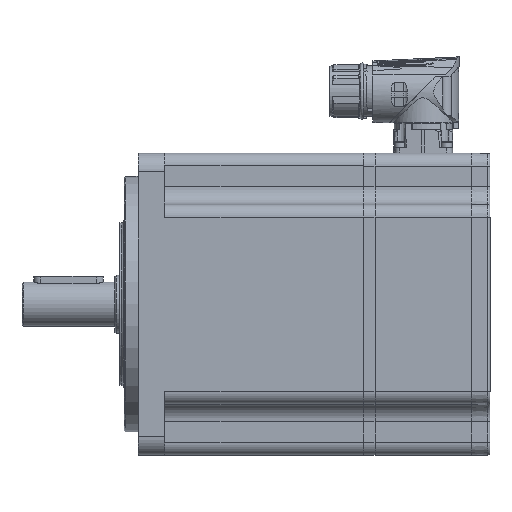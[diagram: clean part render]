
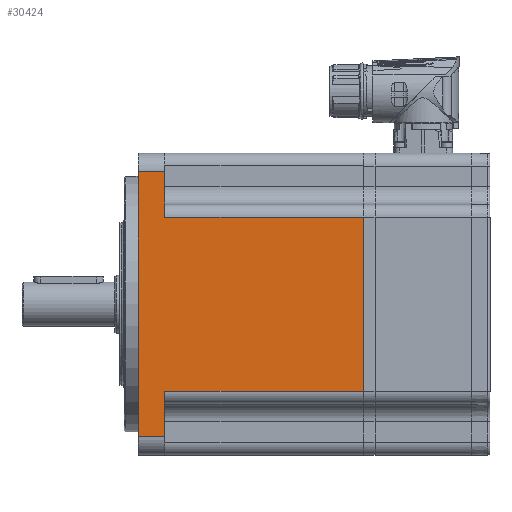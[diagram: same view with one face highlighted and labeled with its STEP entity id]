
A CAD part, left-side view. The second image highlights one B-rep face of the part: STEP entity #30424.
In plain terms, the highlighted planar face has unit normal (-1, 0, 0) as drawn and (1, 0, 0) by its records, which use the part's own axes.
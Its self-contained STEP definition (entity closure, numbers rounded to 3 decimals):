
#1183=LINE('',#66003,#3104);
#1223=LINE('',#66963,#3144);
#1234=LINE('',#67030,#3155);
#1261=LINE('',#67089,#3182);
#1262=LINE('',#67090,#3183);
#1263=LINE('',#67092,#3184);
#1264=LINE('',#67094,#3185);
#1265=LINE('',#67095,#3186);
#3104=VECTOR('',#51227,1000.);
#3144=VECTOR('',#51689,1000.);
#3155=VECTOR('',#51754,1000.);
#3182=VECTOR('',#51817,1000.);
#3183=VECTOR('',#51818,1000.);
#3184=VECTOR('',#51819,1000.);
#3185=VECTOR('',#51820,1000.);
#3186=VECTOR('',#51821,1000.);
#5926=PLANE('',#45787);
#11756=ORIENTED_EDGE('',*,*,#17673,.F.);
#11757=ORIENTED_EDGE('',*,*,#17977,.T.);
#11758=ORIENTED_EDGE('',*,*,#17914,.F.);
#11759=ORIENTED_EDGE('',*,*,#17978,.T.);
#11760=ORIENTED_EDGE('',*,*,#17979,.F.);
#11761=ORIENTED_EDGE('',*,*,#17980,.T.);
#11762=ORIENTED_EDGE('',*,*,#17944,.F.);
#11763=ORIENTED_EDGE('',*,*,#17981,.T.);
#17673=EDGE_CURVE('',#21379,#21380,#1183,.T.);
#17914=EDGE_CURVE('',#21530,#21531,#1223,.T.);
#17944=EDGE_CURVE('',#21560,#21561,#1234,.T.);
#17977=EDGE_CURVE('',#21379,#21531,#1261,.T.);
#17978=EDGE_CURVE('',#21530,#21574,#1262,.T.);
#17979=EDGE_CURVE('',#21575,#21574,#1263,.T.);
#17980=EDGE_CURVE('',#21575,#21561,#1264,.F.);
#17981=EDGE_CURVE('',#21560,#21380,#1265,.T.);
#21379=VERTEX_POINT('',#66002);
#21380=VERTEX_POINT('',#66004);
#21530=VERTEX_POINT('',#66962);
#21531=VERTEX_POINT('',#66964);
#21560=VERTEX_POINT('',#67031);
#21561=VERTEX_POINT('',#67032);
#21574=VERTEX_POINT('',#67091);
#21575=VERTEX_POINT('',#67093);
#25720=EDGE_LOOP('',(#11756,#11757,#11758,#11759,#11760,#11761,#11762,#11763));
#28239=FACE_BOUND('',#25720,.T.);
#30424=ADVANCED_FACE('',(#28239),#5926,.T.);
#45787=AXIS2_PLACEMENT_3D('',#67088,#51815,#51816);
#51227=DIRECTION('',(0.,0.,-1.));
#51689=DIRECTION('',(0.,0.,-1.));
#51754=DIRECTION('',(0.,0.,-1.));
#51815=DIRECTION('',(1.,0.,0.));
#51816=DIRECTION('',(0.,1.,0.));
#51817=DIRECTION('',(0.,-1.,0.));
#51818=DIRECTION('',(0.,-1.,0.));
#51819=DIRECTION('',(0.,0.,1.));
#51820=DIRECTION('',(0.,-1.,0.));
#51821=DIRECTION('',(0.,1.,0.));
#66002=CARTESIAN_POINT('',(65.,98.2,37.5));
#66003=CARTESIAN_POINT('',(65.,98.2,-65.));
#66004=CARTESIAN_POINT('',(65.,98.2,-37.5));
#66962=CARTESIAN_POINT('',(65.,12.7,57.));
#66963=CARTESIAN_POINT('',(65.,12.7,-65.));
#66964=CARTESIAN_POINT('',(65.,12.7,37.5));
#67030=CARTESIAN_POINT('',(65.,12.7,-65.));
#67031=CARTESIAN_POINT('',(65.,12.7,-37.5));
#67032=CARTESIAN_POINT('',(65.,12.7,-57.));
#67088=CARTESIAN_POINT('',(65.,309.164,-65.));
#67089=CARTESIAN_POINT('',(65.,309.164,37.5));
#67090=CARTESIAN_POINT('',(65.,309.164,57.));
#67091=CARTESIAN_POINT('',(65.,1.2,57.));
#67092=CARTESIAN_POINT('',(65.,1.2,-65.));
#67093=CARTESIAN_POINT('',(65.,1.2,-57.));
#67094=CARTESIAN_POINT('',(65.,309.164,-57.));
#67095=CARTESIAN_POINT('',(65.,309.164,-37.5));
